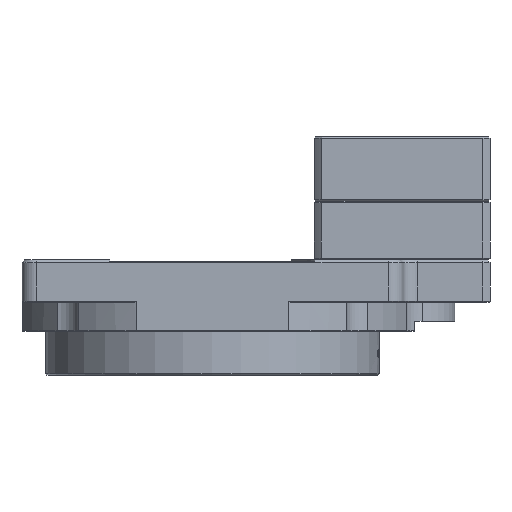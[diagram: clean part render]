
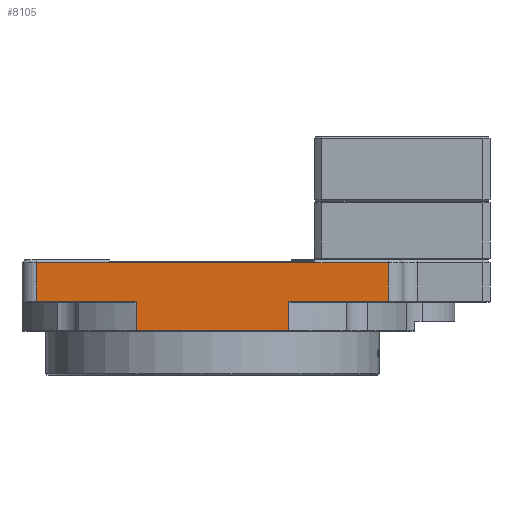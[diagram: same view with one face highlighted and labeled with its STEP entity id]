
A CAD part, left-side view. The second image highlights one B-rep face of the part: STEP entity #8105.
In plain terms, the highlighted planar face has unit normal (-1, 0, 0).
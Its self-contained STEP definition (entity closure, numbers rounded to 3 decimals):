
#375 = CARTESIAN_POINT ( 'NONE',  ( -65., 60., -24.5 ) ) ;
#652 = CARTESIAN_POINT ( 'NONE',  ( -65., -60., -24.5 ) ) ;
#1083 = DIRECTION ( 'NONE',  ( 0., -1., 0. ) ) ;
#2850 = VECTOR ( 'NONE', #18329, 1000. ) ;
#3137 = CARTESIAN_POINT ( 'NONE',  ( -65., -60., -1. ) ) ;
#3225 = EDGE_LOOP ( 'NONE', ( #23550, #24587, #18404, #18314, #15837, #12062, #19097, #13349 ) ) ;
#3362 = CARTESIAN_POINT ( 'NONE',  ( -65., 60., -14.2 ) ) ;
#3951 = VERTEX_POINT ( 'NONE', #3362 ) ;
#4057 = LINE ( 'NONE', #4192, #17166 ) ;
#4139 = PLANE ( 'NONE',  #12440 ) ;
#4192 = CARTESIAN_POINT ( 'NONE',  ( -65., 25.981, -14.5 ) ) ;
#5047 = VERTEX_POINT ( 'NONE', #21372 ) ;
#6032 = DIRECTION ( 'NONE',  ( 0., 0., 1. ) ) ;
#7152 = EDGE_CURVE ( 'NONE', #16297, #11958, #4057, .T. ) ;
#7213 = CARTESIAN_POINT ( 'NONE',  ( -65., 60., -14.2 ) ) ;
#7225 = LINE ( 'NONE', #18612, #18901 ) ;
#7789 = CARTESIAN_POINT ( 'NONE',  ( -65., -60., -14.2 ) ) ;
#8085 = EDGE_CURVE ( 'NONE', #3951, #10431, #10004, .T. ) ;
#8105 = ADVANCED_FACE ( 'NONE', ( #21286 ), #4139, .T. ) ;
#8285 = DIRECTION ( 'NONE',  ( 0., 0., 1. ) ) ;
#8520 = VECTOR ( 'NONE', #12678, 1000. ) ;
#8584 = EDGE_CURVE ( 'NONE', #22805, #11817, #16714, .T. ) ;
#10004 = LINE ( 'NONE', #17416, #23165 ) ;
#10037 = CARTESIAN_POINT ( 'NONE',  ( -65., 60., -1. ) ) ;
#10431 = VERTEX_POINT ( 'NONE', #10037 ) ;
#10755 = CARTESIAN_POINT ( 'NONE',  ( -65., 25.981, -24.2 ) ) ;
#11191 = EDGE_CURVE ( 'NONE', #5047, #22805, #12223, .T. ) ;
#11817 = VERTEX_POINT ( 'NONE', #7789 ) ;
#11958 = VERTEX_POINT ( 'NONE', #10755 ) ;
#12062 = ORIENTED_EDGE ( 'NONE', *, *, #12675, .T. ) ;
#12223 = LINE ( 'NONE', #20074, #2850 ) ;
#12310 = CARTESIAN_POINT ( 'NONE',  ( -65., 60., -14.2 ) ) ;
#12440 = AXIS2_PLACEMENT_3D ( 'NONE', #375, #15663, #13809 ) ;
#12675 = EDGE_CURVE ( 'NONE', #3951, #16297, #19804, .T. ) ;
#12678 = DIRECTION ( 'NONE',  ( 0., 1., 0. ) ) ;
#12853 = VERTEX_POINT ( 'NONE', #3137 ) ;
#12990 = VECTOR ( 'NONE', #19679, 1000. ) ;
#13349 = ORIENTED_EDGE ( 'NONE', *, *, #16505, .T. ) ;
#13809 = DIRECTION ( 'NONE',  ( 0., 0., 1. ) ) ;
#15663 = DIRECTION ( 'NONE',  ( -1., 0., 0. ) ) ;
#15837 = ORIENTED_EDGE ( 'NONE', *, *, #8085, .F. ) ;
#15948 = CARTESIAN_POINT ( 'NONE',  ( -65., -25.981, -14.2 ) ) ;
#16297 = VERTEX_POINT ( 'NONE', #22235 ) ;
#16505 = EDGE_CURVE ( 'NONE', #11958, #5047, #7225, .T. ) ;
#16714 = LINE ( 'NONE', #7213, #20820 ) ;
#17166 = VECTOR ( 'NONE', #21690, 1000. ) ;
#17416 = CARTESIAN_POINT ( 'NONE',  ( -65., 60., -24.5 ) ) ;
#17499 = EDGE_CURVE ( 'NONE', #12853, #10431, #18036, .T. ) ;
#18036 = LINE ( 'NONE', #21669, #8520 ) ;
#18314 = ORIENTED_EDGE ( 'NONE', *, *, #17499, .T. ) ;
#18329 = DIRECTION ( 'NONE',  ( 0., 0., 1. ) ) ;
#18404 = ORIENTED_EDGE ( 'NONE', *, *, #23227, .T. ) ;
#18612 = CARTESIAN_POINT ( 'NONE',  ( -65., 60., -24.2 ) ) ;
#18901 = VECTOR ( 'NONE', #1083, 1000. ) ;
#19097 = ORIENTED_EDGE ( 'NONE', *, *, #7152, .T. ) ;
#19660 = LINE ( 'NONE', #652, #24130 ) ;
#19679 = DIRECTION ( 'NONE',  ( 0., -1., 0. ) ) ;
#19804 = LINE ( 'NONE', #12310, #12990 ) ;
#20074 = CARTESIAN_POINT ( 'NONE',  ( -65., -25.981, -14.5 ) ) ;
#20820 = VECTOR ( 'NONE', #20954, 1000. ) ;
#20954 = DIRECTION ( 'NONE',  ( 0., -1., 0. ) ) ;
#21286 = FACE_OUTER_BOUND ( 'NONE', #3225, .T. ) ;
#21372 = CARTESIAN_POINT ( 'NONE',  ( -65., -25.981, -24.2 ) ) ;
#21669 = CARTESIAN_POINT ( 'NONE',  ( -65., 60., -1. ) ) ;
#21690 = DIRECTION ( 'NONE',  ( 0., 0., -1. ) ) ;
#22235 = CARTESIAN_POINT ( 'NONE',  ( -65., 25.981, -14.2 ) ) ;
#22805 = VERTEX_POINT ( 'NONE', #15948 ) ;
#23165 = VECTOR ( 'NONE', #6032, 1000. ) ;
#23227 = EDGE_CURVE ( 'NONE', #11817, #12853, #19660, .T. ) ;
#23550 = ORIENTED_EDGE ( 'NONE', *, *, #11191, .T. ) ;
#24130 = VECTOR ( 'NONE', #8285, 1000. ) ;
#24587 = ORIENTED_EDGE ( 'NONE', *, *, #8584, .T. ) ;
